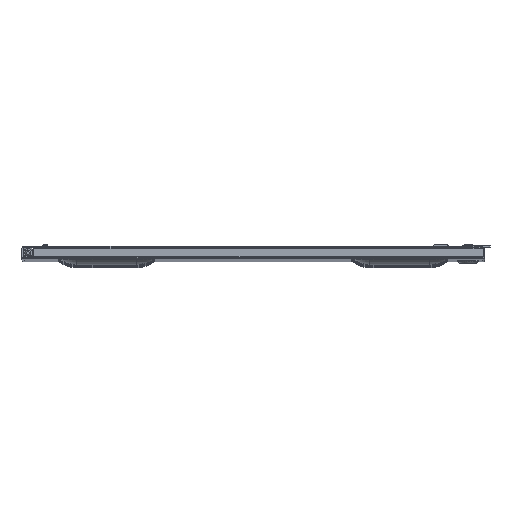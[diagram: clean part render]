
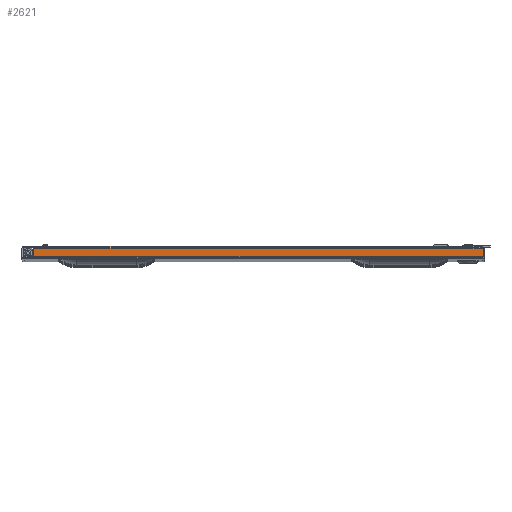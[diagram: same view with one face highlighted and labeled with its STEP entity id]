
A CAD part, top view. The second image highlights one B-rep face of the part: STEP entity #2621.
In plain terms, the highlighted planar face has unit normal (0, 0, 1).
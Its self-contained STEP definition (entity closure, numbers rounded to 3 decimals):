
#2621 = ADVANCED_FACE( '', ( #5673 ), #5674, .T. );
#5673 = FACE_OUTER_BOUND( '', #9556, .T. );
#5674 = PLANE( '', #9557 );
#9556 = EDGE_LOOP( '', ( #16753, #16754, #16755, #16756, #16757, #16758, #16759 ) );
#9557 = AXIS2_PLACEMENT_3D( '', #16760, #16761, #16762 );
#16753 = ORIENTED_EDGE( '', *, *, #25116, .T. );
#16754 = ORIENTED_EDGE( '', *, *, #23315, .T. );
#16755 = ORIENTED_EDGE( '', *, *, #24475, .F. );
#16756 = ORIENTED_EDGE( '', *, *, #24040, .F. );
#16757 = ORIENTED_EDGE( '', *, *, #24388, .F. );
#16758 = ORIENTED_EDGE( '', *, *, #24100, .T. );
#16759 = ORIENTED_EDGE( '', *, *, #24976, .T. );
#16760 = CARTESIAN_POINT( '', ( -232.88, 1.181, 885.825 ) );
#16761 = DIRECTION( '', ( 0., 0., 1. ) );
#16762 = DIRECTION( '', ( 0., -1., 0. ) );
#23315 = EDGE_CURVE( '', #28276, #28277, #28278, .T. );
#24040 = EDGE_CURVE( '', #27021, #29450, #29451, .T. );
#24100 = EDGE_CURVE( '', #29542, #29540, #29543, .T. );
#24388 = EDGE_CURVE( '', #29542, #27021, #29989, .T. );
#24475 = EDGE_CURVE( '', #29450, #28277, #30112, .T. );
#24976 = EDGE_CURVE( '', #29540, #30833, #30835, .T. );
#25116 = EDGE_CURVE( '', #30833, #28276, #31027, .T. );
#27021 = VERTEX_POINT( '', #33317 );
#28276 = VERTEX_POINT( '', #34918 );
#28277 = VERTEX_POINT( '', #34919 );
#28278 = LINE( '', #34920, #34921 );
#29450 = VERTEX_POINT( '', #36331 );
#29451 = LINE( '', #36332, #36333 );
#29540 = VERTEX_POINT( '', #36439 );
#29542 = VERTEX_POINT( '', #36441 );
#29543 = LINE( '', #36442, #36443 );
#29989 = LINE( '', #36980, #36981 );
#30112 = LINE( '', #37150, #37151 );
#30833 = VERTEX_POINT( '', #38079 );
#30835 = LINE( '', #38081, #38082 );
#31027 = LINE( '', #38345, #38346 );
#33317 = CARTESIAN_POINT( '', ( 232.88, 11.303, 885.825 ) );
#34918 = CARTESIAN_POINT( '', ( 243.98, 12.04, 885.825 ) );
#34919 = CARTESIAN_POINT( '', ( 232.882, 12.04, 885.825 ) );
#34920 = CARTESIAN_POINT( '', ( 245.453, 12.04, 885.825 ) );
#34921 = VECTOR( '', #42361, 1000. );
#36331 = CARTESIAN_POINT( '', ( 232.882, 11.303, 885.825 ) );
#36332 = CARTESIAN_POINT( '', ( 232.88, 11.303, 885.825 ) );
#36333 = VECTOR( '', #43599, 1000. );
#36439 = CARTESIAN_POINT( '', ( -232.88, 2.184, 885.825 ) );
#36441 = CARTESIAN_POINT( '', ( -232.88, 11.303, 885.825 ) );
#36442 = CARTESIAN_POINT( '', ( -232.88, 1.181, 885.825 ) );
#36443 = VECTOR( '', #43701, 1000. );
#36980 = CARTESIAN_POINT( '', ( 232.88, 11.303, 885.825 ) );
#36981 = VECTOR( '', #44187, 1000. );
#37150 = CARTESIAN_POINT( '', ( 232.882, 11.303, 885.825 ) );
#37151 = VECTOR( '', #44309, 1000. );
#38079 = CARTESIAN_POINT( '', ( 243.98, 2.184, 885.825 ) );
#38081 = CARTESIAN_POINT( '', ( -232.88, 2.184, 885.825 ) );
#38082 = VECTOR( '', #45071, 1000. );
#38345 = CARTESIAN_POINT( '', ( 243.98, 1.181, 885.825 ) );
#38346 = VECTOR( '', #45263, 1000. );
#42361 = DIRECTION( '', ( -1., 0., 0. ) );
#43599 = DIRECTION( '', ( 1., 0., 0. ) );
#43701 = DIRECTION( '', ( 0., -1., 0. ) );
#44187 = DIRECTION( '', ( 1., 0., 0. ) );
#44309 = DIRECTION( '', ( 0., 1., 0. ) );
#45071 = DIRECTION( '', ( 1., 0., 0. ) );
#45263 = DIRECTION( '', ( 0., 1., 0. ) );
